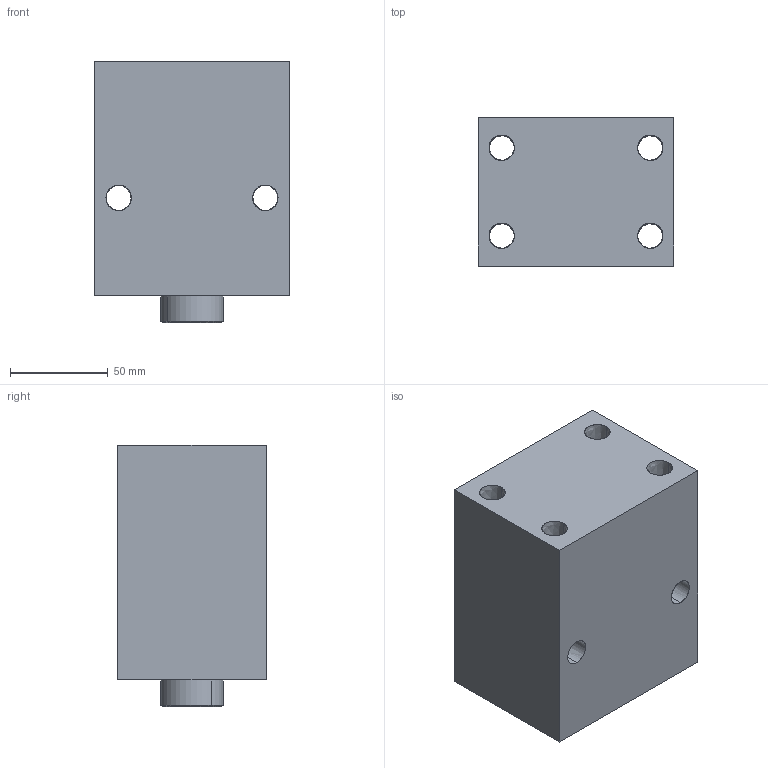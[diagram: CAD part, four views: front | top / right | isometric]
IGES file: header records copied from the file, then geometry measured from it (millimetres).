
Start section: SolidWorks IGES file using analytic representation for surfaces
Global section: file name: D:\karuppas\Clasp\3D model\Block cylinder B01C-Female thread\B01C-450F\Block cylinder B01C-450F.IGS; native system: SolidWorks 2017; preprocessor: SolidWorks 2017; author: pc; date: 220710.000102; units: millimetre
Bounding box: 100 x 76 x 134 mm (x, y, z)
Surface area: 94319.7 mm2 (no closed solid volume)
Topology: 0 solids, 0 shells, 226 faces, 4075 edges, 4069 vertices
Faces by surface type: bspline 186, revolution 40
